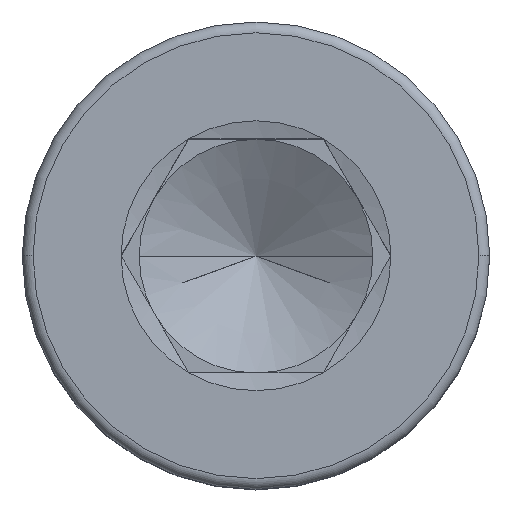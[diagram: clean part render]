
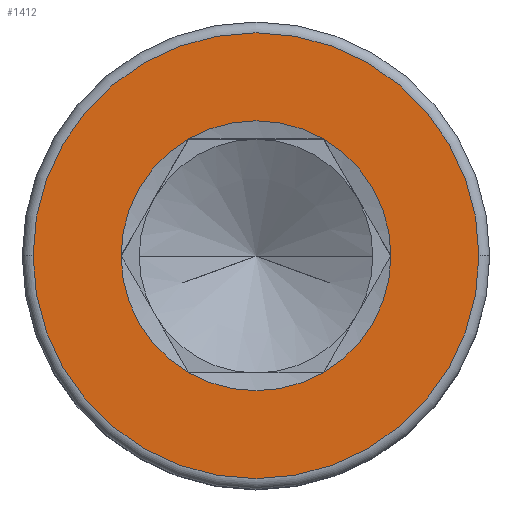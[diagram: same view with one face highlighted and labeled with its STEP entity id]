
A CAD part, top view. The second image highlights one B-rep face of the part: STEP entity #1412.
In plain terms, the highlighted planar face has unit normal (0, 0, 1).
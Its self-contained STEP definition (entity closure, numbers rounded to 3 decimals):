
#49 = CIRCLE ( 'NONE', #136, 7.63 ) ;
#61 = DIRECTION ( 'NONE',  ( 0., 0., 1. ) ) ;
#62 = DIRECTION ( 'NONE',  ( 0., 0., 1. ) ) ;
#101 = CARTESIAN_POINT ( 'NONE',  ( 7.63, 0., 10. ) ) ;
#124 = ORIENTED_EDGE ( 'NONE', *, *, #1206, .T. ) ;
#136 = AXIS2_PLACEMENT_3D ( 'NONE', #186, #1456, #603 ) ;
#145 = DIRECTION ( 'NONE',  ( 0., 0., 1. ) ) ;
#186 = CARTESIAN_POINT ( 'NONE',  ( 0., 0., 10. ) ) ;
#205 = ORIENTED_EDGE ( 'NONE', *, *, #516, .T. ) ;
#244 = CARTESIAN_POINT ( 'NONE',  ( 2.309, 4., 10. ) ) ;
#257 = CIRCLE ( 'NONE', #1279, 4.619 ) ;
#258 = FACE_BOUND ( 'NONE', #1635, .T. ) ;
#260 = AXIS2_PLACEMENT_3D ( 'NONE', #1793, #145, #1283 ) ;
#313 = CARTESIAN_POINT ( 'NONE',  ( -7.63, 0., 10. ) ) ;
#319 = CARTESIAN_POINT ( 'NONE',  ( 0., 0., 10. ) ) ;
#328 = CARTESIAN_POINT ( 'NONE',  ( 0., 0., 10. ) ) ;
#335 = EDGE_CURVE ( 'NONE', #717, #507, #1243, .T. ) ;
#337 = DIRECTION ( 'NONE',  ( 0., 0., 1. ) ) ;
#350 = AXIS2_PLACEMENT_3D ( 'NONE', #473, #337, #351 ) ;
#351 = DIRECTION ( 'NONE',  ( 1., 0., 0. ) ) ;
#377 = AXIS2_PLACEMENT_3D ( 'NONE', #1200, #62, #1329 ) ;
#378 = EDGE_CURVE ( 'NONE', #824, #719, #1074, .T. ) ;
#447 = CARTESIAN_POINT ( 'NONE',  ( 0., 0., 10. ) ) ;
#450 = EDGE_LOOP ( 'NONE', ( #205, #124 ) ) ;
#468 = AXIS2_PLACEMENT_3D ( 'NONE', #447, #867, #569 ) ;
#473 = CARTESIAN_POINT ( 'NONE',  ( 0., 0., 10. ) ) ;
#486 = ORIENTED_EDGE ( 'NONE', *, *, #1035, .F. ) ;
#497 = AXIS2_PLACEMENT_3D ( 'NONE', #328, #1167, #1716 ) ;
#507 = VERTEX_POINT ( 'NONE', #1053 ) ;
#516 = EDGE_CURVE ( 'NONE', #797, #870, #49, .T. ) ;
#545 = EDGE_CURVE ( 'NONE', #719, #1106, #1132, .T. ) ;
#564 = ORIENTED_EDGE ( 'NONE', *, *, #378, .F. ) ;
#569 = DIRECTION ( 'NONE',  ( 1., 0., 0. ) ) ;
#598 = EDGE_CURVE ( 'NONE', #1489, #824, #257, .T. ) ;
#602 = EDGE_CURVE ( 'NONE', #1106, #717, #724, .T. ) ;
#603 = DIRECTION ( 'NONE',  ( 1., 0., 0. ) ) ;
#645 = CIRCLE ( 'NONE', #700, 4.619 ) ;
#676 = CIRCLE ( 'NONE', #260, 7.63 ) ;
#700 = AXIS2_PLACEMENT_3D ( 'NONE', #319, #876, #742 ) ;
#717 = VERTEX_POINT ( 'NONE', #735 ) ;
#719 = VERTEX_POINT ( 'NONE', #1513 ) ;
#724 = CIRCLE ( 'NONE', #497, 4.619 ) ;
#735 = CARTESIAN_POINT ( 'NONE',  ( -2.309, -4., 10. ) ) ;
#742 = DIRECTION ( 'NONE',  ( 1., 0., 0. ) ) ;
#783 = CARTESIAN_POINT ( 'NONE',  ( 0., 0., 10. ) ) ;
#792 = FACE_OUTER_BOUND ( 'NONE', #450, .T. ) ;
#797 = VERTEX_POINT ( 'NONE', #101 ) ;
#808 = ORIENTED_EDGE ( 'NONE', *, *, #545, .F. ) ;
#824 = VERTEX_POINT ( 'NONE', #244 ) ;
#867 = DIRECTION ( 'NONE',  ( 0., 0., 1. ) ) ;
#870 = VERTEX_POINT ( 'NONE', #313 ) ;
#876 = DIRECTION ( 'NONE',  ( 0., 0., 1. ) ) ;
#1025 = CARTESIAN_POINT ( 'NONE',  ( 0., 0., 10. ) ) ;
#1035 = EDGE_CURVE ( 'NONE', #507, #1489, #645, .T. ) ;
#1053 = CARTESIAN_POINT ( 'NONE',  ( 2.309, -4., 10. ) ) ;
#1074 = CIRCLE ( 'NONE', #377, 4.619 ) ;
#1106 = VERTEX_POINT ( 'NONE', #1457 ) ;
#1132 = CIRCLE ( 'NONE', #350, 4.619 ) ;
#1167 = DIRECTION ( 'NONE',  ( 0., 0., 1. ) ) ;
#1200 = CARTESIAN_POINT ( 'NONE',  ( 0., 0., 10. ) ) ;
#1206 = EDGE_CURVE ( 'NONE', #870, #797, #676, .T. ) ;
#1241 = ORIENTED_EDGE ( 'NONE', *, *, #602, .F. ) ;
#1243 = CIRCLE ( 'NONE', #468, 4.619 ) ;
#1279 = AXIS2_PLACEMENT_3D ( 'NONE', #1025, #61, #1724 ) ;
#1283 = DIRECTION ( 'NONE',  ( 1., 0., 0. ) ) ;
#1329 = DIRECTION ( 'NONE',  ( 1., 0., 0. ) ) ;
#1347 = DIRECTION ( 'NONE',  ( 0., 0., 1. ) ) ;
#1368 = PLANE ( 'NONE',  #1592 ) ;
#1410 = CARTESIAN_POINT ( 'NONE',  ( 4.619, 0., 10. ) ) ;
#1412 = ADVANCED_FACE ( 'NONE', ( #792, #258 ), #1368, .T. ) ;
#1456 = DIRECTION ( 'NONE',  ( 0., 0., 1. ) ) ;
#1457 = CARTESIAN_POINT ( 'NONE',  ( -4.619, 0., 10. ) ) ;
#1460 = ORIENTED_EDGE ( 'NONE', *, *, #335, .F. ) ;
#1466 = DIRECTION ( 'NONE',  ( 1., 0., 0. ) ) ;
#1489 = VERTEX_POINT ( 'NONE', #1410 ) ;
#1513 = CARTESIAN_POINT ( 'NONE',  ( -2.309, 4., 10. ) ) ;
#1556 = ORIENTED_EDGE ( 'NONE', *, *, #598, .F. ) ;
#1592 = AXIS2_PLACEMENT_3D ( 'NONE', #783, #1347, #1466 ) ;
#1635 = EDGE_LOOP ( 'NONE', ( #1556, #486, #1460, #1241, #808, #564 ) ) ;
#1716 = DIRECTION ( 'NONE',  ( 1., 0., 0. ) ) ;
#1724 = DIRECTION ( 'NONE',  ( 1., 0., 0. ) ) ;
#1793 = CARTESIAN_POINT ( 'NONE',  ( 0., 0., 10. ) ) ;
